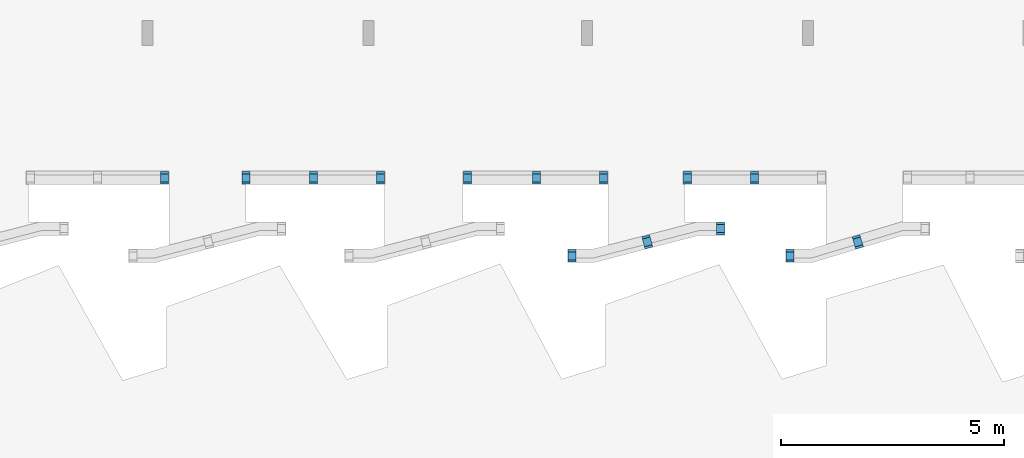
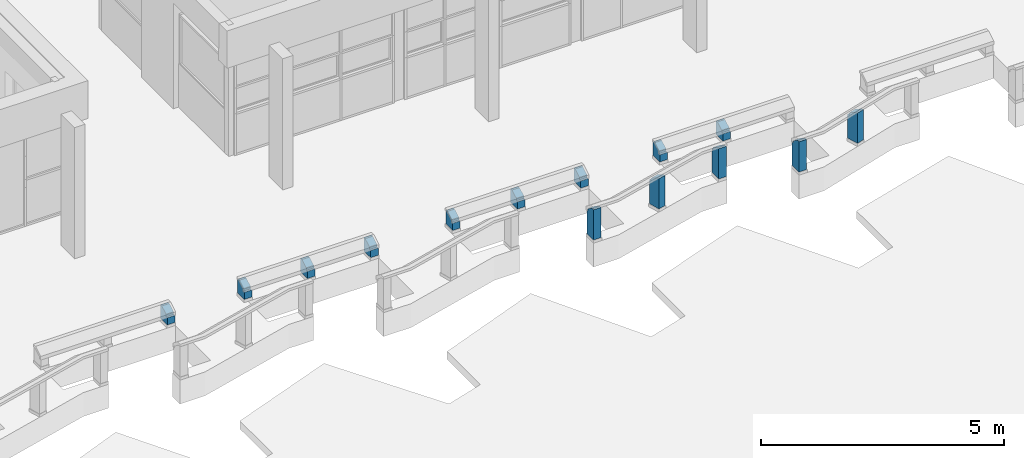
# One storey, part 95 of 117: 14 walls, 14 openings.
"""IFC4 building model written with IfcOpenShell, lengths in metres."""

from ifc_helpers import new_model, entity, si_unit, converted_unit, derived_unit, direction, frame, origin, place, context, subcontext, project, spatial, indexed_curve, outline, extrude, polygons, material, type_object, element, save


model = new_model("IFC4")

# Units and contexts
model_context = context("Model", 3, precision=1e-05, world=origin(), true_north=direction((6.123031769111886e-17, 1.0)))
body_context = subcontext(model_context, "Body", "Model", "MODEL_VIEW")
ifc_project = project(units=[si_unit("LENGTHUNIT", "METRE"), si_unit("AREAUNIT", "SQUARE_METRE"), si_unit("VOLUMEUNIT", "CUBIC_METRE"), converted_unit("PLANEANGLEUNIT", "DEGREE", entity("IfcRatioMeasure", 0.017453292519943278), si_unit("PLANEANGLEUNIT", "RADIAN"), dimensions=[0, 0, 0, 0, 0, 0, 0]), si_unit("MASSUNIT", "GRAM", prefix="KILO"), derived_unit("MASSDENSITYUNIT", [(si_unit("MASSUNIT", "GRAM", prefix="KILO"), 1), (si_unit("LENGTHUNIT", "METRE"), -3)]), derived_unit("MOMENTOFINERTIAUNIT", [(si_unit("LENGTHUNIT", "METRE"), 4)]), si_unit("TIMEUNIT", "SECOND"), si_unit("FREQUENCYUNIT", "HERTZ"), si_unit("THERMODYNAMICTEMPERATUREUNIT", "DEGREE_CELSIUS"), derived_unit("THERMALTRANSMITTANCEUNIT", [(si_unit("MASSUNIT", "GRAM", prefix="KILO"), 1), (si_unit("THERMODYNAMICTEMPERATUREUNIT", "KELVIN"), -1), (si_unit("TIMEUNIT", "SECOND"), -3)]), derived_unit("VOLUMETRICFLOWRATEUNIT", [(si_unit("LENGTHUNIT", "METRE"), 3), (si_unit("TIMEUNIT", "SECOND"), -1)]), derived_unit("MASSFLOWRATEUNIT", [(si_unit("MASSUNIT", "GRAM", prefix="KILO"), 1), (si_unit("TIMEUNIT", "SECOND"), -1)]), derived_unit("ROTATIONALFREQUENCYUNIT", [(si_unit("TIMEUNIT", "SECOND"), -1)]), si_unit("ELECTRICCURRENTUNIT", "AMPERE"), si_unit("ELECTRICVOLTAGEUNIT", "VOLT"), si_unit("POWERUNIT", "WATT"), si_unit("FORCEUNIT", "NEWTON", prefix="KILO"), si_unit("ILLUMINANCEUNIT", "LUX"), si_unit("LUMINOUSFLUXUNIT", "LUMEN"), si_unit("LUMINOUSINTENSITYUNIT", "CANDELA"), derived_unit("USERDEFINED", [(si_unit("MASSUNIT", "GRAM", prefix="KILO"), -1), (si_unit("LENGTHUNIT", "METRE"), -2), (si_unit("TIMEUNIT", "SECOND"), 3), (si_unit("LUMINOUSFLUXUNIT", "LUMEN"), 1)]), derived_unit("SOUNDPOWERUNIT", [(si_unit("MASSUNIT", "GRAM", prefix="KILO"), 1), (si_unit("LENGTHUNIT", "METRE"), 2), (si_unit("TIMEUNIT", "SECOND"), -3)]), derived_unit("SOUNDPRESSUREUNIT", [(si_unit("MASSUNIT", "GRAM", prefix="KILO"), 1), (si_unit("LENGTHUNIT", "METRE"), -1), (si_unit("TIMEUNIT", "SECOND"), -2)]), derived_unit("LINEARVELOCITYUNIT", [(si_unit("LENGTHUNIT", "METRE"), 1), (si_unit("TIMEUNIT", "SECOND"), -1)]), si_unit("PRESSUREUNIT", "PASCAL"), derived_unit("USERDEFINED", [(si_unit("LENGTHUNIT", "METRE"), -2), (si_unit("MASSUNIT", "GRAM", prefix="KILO"), 1), (si_unit("TIMEUNIT", "SECOND"), -2)]), derived_unit("LINEARFORCEUNIT", [(si_unit("MASSUNIT", "GRAM", prefix="KILO"), 1), (si_unit("LENGTHUNIT", "METRE"), 1), (si_unit("TIMEUNIT", "SECOND"), -2), (si_unit("LENGTHUNIT", "METRE"), -1)]), derived_unit("PLANARFORCEUNIT", [(si_unit("MASSUNIT", "GRAM", prefix="KILO"), 1), (si_unit("LENGTHUNIT", "METRE"), 1), (si_unit("TIMEUNIT", "SECOND"), -2), (si_unit("LENGTHUNIT", "METRE"), -2)])], contexts=[model_context])

# Site, building, storey
site_placement = place(None, origin())
site = spatial("IfcSite", under=ifc_project, at=site_placement, Name="Superficie", CompositionType="ELEMENT")
building_placement = place(site_placement, origin())
building = spatial("IfcBuilding", under=site, at=building_placement, CompositionType="ELEMENT")
storey_placement = place(building_placement, origin())
storey = spatial("IfcBuildingStorey", under=building, at=storey_placement, Name="Nivel 0", CompositionType="ELEMENT", Elevation=0.0)

# Wall, opening
ifc_material = material(Name="Muro por defecto", Category="Varios")
wall_type = type_object("IfcWallType", Name="Muro básico:Por defecto - 18 cm 2", PredefinedType="STANDARD")
wall_1_placement = place(storey_placement, frame((-3.4082009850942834, -6.1541707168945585, 0.07000000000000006), z_axis=(0.0, 0.0, 1.0), x_axis=(0.0, -1.0, 0.0)))
wall_1 = element("IfcWall", 1, at=wall_1_placement, inside=storey, type_object=wall_type, material=ifc_material, Name="Muro básico:Por defecto - 18 cm 2", ObjectType="Muro básico:Por defecto - 18 cm 2", PredefinedType="NOTDEFINED", context=body_context, shape_type="Tessellation", body=[
    polygons([(0.0, -0.09000000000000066, 0.0), (0.27999999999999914, -0.09000000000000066, 0.0), (0.27999999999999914, -0.09000000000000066, 0.17999999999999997), (0.22999999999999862, -0.09000000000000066, 0.17999999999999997), (0.22999999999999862, -0.09000000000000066, 0.24069791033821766), (0.04999999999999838, -0.09000000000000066, 0.3399999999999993), (0.0, -0.09000000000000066, 0.3399999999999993), (0.0, 0.09000000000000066, 0.0), (0.0, 0.09000000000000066, 0.3399999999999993), (0.04999999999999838, 0.09000000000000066, 0.3399999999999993), (0.22999999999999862, 0.09000000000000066, 0.24069791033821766), (0.22999999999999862, 0.09000000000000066, 0.17999999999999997), (0.27999999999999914, 0.09000000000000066, 0.17999999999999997), (0.27999999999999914, 0.09000000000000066, 0.0)], [[[1, 2, 3, 4, 5, 6, 7]], [[8, 9, 10, 11, 12, 13, 14]], [[2, 1, 8, 14]], [[1, 7, 9, 8]], [[3, 2, 14, 13]], [[4, 3, 13, 12]], [[5, 4, 12, 11]], [[6, 5, 11, 10]], [[7, 6, 10, 9]]], closed=True),
])
opening_1_placement = place(wall_1_placement, origin())
element("IfcOpeningElement", 2, at=opening_1_placement, cuts=wall_1, Name="Muro básico:Por defecto - 18 cm 2", PredefinedType="OPENING", context=body_context, shape_type="SweptSolid", body=[
    extrude(outline(indexed_curve([(-0.036810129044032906, -0.0128641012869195), (0.04182978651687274, -0.012864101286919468), (-0.005019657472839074, 0.025728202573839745), (-0.036810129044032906, -0.0128641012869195)], self_intersect=False)), frame((0.2466666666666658, 0.09000000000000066, 0.20023263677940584), z_axis=(0.0, -1.0, 0.0), x_axis=(-0.6358094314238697, 0.0, 0.771846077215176)), (0.0, 0.0, 1.0), 0.18),
])

wall_2_placement = place(storey_placement, frame((-1.5779732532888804, -6.154170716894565, 0.07000000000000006), z_axis=(0.0, 0.0, 1.0), x_axis=(0.0, -1.0, 0.0)))
wall_2 = element("IfcWall", 3, at=wall_2_placement, inside=storey, type_object=wall_type, material=ifc_material, Name="Muro básico:Por defecto - 18 cm 2", ObjectType="Muro básico:Por defecto - 18 cm 2", PredefinedType="NOTDEFINED", context=body_context, shape_type="Tessellation", body=[
    polygons([(0.0, -0.08999999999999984, 0.0), (0.27999999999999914, -0.08999999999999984, 0.0), (0.27999999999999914, -0.08999999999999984, 0.17999999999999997), (0.22999999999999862, -0.08999999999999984, 0.17999999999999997), (0.22999999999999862, -0.08999999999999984, 0.24069791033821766), (0.04999999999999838, -0.08999999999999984, 0.3399999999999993), (0.0, -0.08999999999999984, 0.3399999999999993), (0.0, 0.09000000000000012, 0.0), (0.0, 0.09000000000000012, 0.3399999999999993), (0.04999999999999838, 0.09000000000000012, 0.3399999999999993), (0.22999999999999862, 0.09000000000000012, 0.24069791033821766), (0.22999999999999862, 0.09000000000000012, 0.17999999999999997), (0.27999999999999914, 0.09000000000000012, 0.17999999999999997), (0.27999999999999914, 0.09000000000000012, 0.0)], [[[1, 2, 3, 4, 5, 6, 7]], [[8, 9, 10, 11, 12, 13, 14]], [[2, 1, 8, 14]], [[1, 7, 9, 8]], [[3, 2, 14, 13]], [[4, 3, 13, 12]], [[5, 4, 12, 11]], [[6, 5, 11, 10]], [[7, 6, 10, 9]]], closed=True),
])
opening_2_placement = place(wall_2_placement, origin())
element("IfcOpeningElement", 4, at=opening_2_placement, cuts=wall_2, Name="Muro básico:Por defecto - 18 cm 2", PredefinedType="OPENING", context=body_context, shape_type="SweptSolid", body=[
    extrude(outline(indexed_curve([(-0.036810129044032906, -0.0128641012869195), (0.04182978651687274, -0.012864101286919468), (-0.005019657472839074, 0.025728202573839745), (-0.036810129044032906, -0.0128641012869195)], self_intersect=False)), frame((0.2466666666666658, 0.09000000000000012, 0.20023263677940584), z_axis=(0.0, -1.0, 0.0), x_axis=(-0.6358094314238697, 0.0, 0.771846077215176)), (0.0, 0.0, 1.0), 0.18),
])

wall_3_placement = place(storey_placement, frame((-0.07308711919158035, -6.154170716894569, 0.07000000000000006), z_axis=(0.0, 0.0, 1.0), x_axis=(0.0, -1.0, 0.0)))
wall_3 = element("IfcWall", 5, at=wall_3_placement, inside=storey, type_object=wall_type, material=ifc_material, Name="Muro básico:Por defecto - 18 cm 2", ObjectType="Muro básico:Por defecto - 18 cm 2", PredefinedType="NOTDEFINED", context=body_context, shape_type="Tessellation", body=[
    polygons([(0.0, -0.08999999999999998, 0.0), (0.27999999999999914, -0.08999999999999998, 0.0), (0.27999999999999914, -0.08999999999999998, 0.17999999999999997), (0.22999999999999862, -0.08999999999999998, 0.17999999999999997), (0.22999999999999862, -0.08999999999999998, 0.24069791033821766), (0.04999999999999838, -0.08999999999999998, 0.3399999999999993), (0.0, -0.08999999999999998, 0.3399999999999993), (0.0, 0.09, 0.0), (0.0, 0.09, 0.3399999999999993), (0.04999999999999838, 0.09, 0.3399999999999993), (0.22999999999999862, 0.09, 0.24069791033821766), (0.22999999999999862, 0.09, 0.17999999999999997), (0.27999999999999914, 0.09, 0.17999999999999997), (0.27999999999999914, 0.09, 0.0)], [[[1, 2, 3, 4, 5, 6, 7]], [[8, 9, 10, 11, 12, 13, 14]], [[2, 1, 8, 14]], [[1, 7, 9, 8]], [[3, 2, 14, 13]], [[4, 3, 13, 12]], [[5, 4, 12, 11]], [[6, 5, 11, 10]], [[7, 6, 10, 9]]], closed=True),
])
opening_3_placement = place(wall_3_placement, origin())
element("IfcOpeningElement", 6, at=opening_3_placement, cuts=wall_3, Name="Muro básico:Por defecto - 18 cm 2", PredefinedType="OPENING", context=body_context, shape_type="SweptSolid", body=[
    extrude(outline(indexed_curve([(-0.036810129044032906, -0.0128641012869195), (0.04182978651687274, -0.012864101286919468), (-0.005019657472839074, 0.025728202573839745), (-0.036810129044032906, -0.0128641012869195)], self_intersect=False)), frame((0.2466666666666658, 0.09, 0.20023263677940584), z_axis=(0.0, -1.0, 0.0), x_axis=(-0.6358094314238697, 0.0, 0.771846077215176)), (0.0, 0.0, 1.0), 0.18),
])

wall_4_placement = place(storey_placement, frame((1.4317990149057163, -6.154170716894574, 0.07000000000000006), z_axis=(0.0, 0.0, 1.0), x_axis=(0.0, -1.0, 0.0)))
wall_4 = element("IfcWall", 7, at=wall_4_placement, inside=storey, type_object=wall_type, material=ifc_material, Name="Muro básico:Por defecto - 18 cm 2", ObjectType="Muro básico:Por defecto - 18 cm 2", PredefinedType="NOTDEFINED", context=body_context, shape_type="Tessellation", body=[
    polygons([(0.0, -0.08999999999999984, 0.0), (0.27999999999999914, -0.08999999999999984, 0.0), (0.27999999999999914, -0.08999999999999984, 0.17999999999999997), (0.22999999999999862, -0.08999999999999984, 0.17999999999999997), (0.22999999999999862, -0.08999999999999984, 0.24069791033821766), (0.04999999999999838, -0.08999999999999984, 0.3399999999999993), (0.0, -0.08999999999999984, 0.3399999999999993), (0.0, 0.09000000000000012, 0.0), (0.0, 0.09000000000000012, 0.3399999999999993), (0.04999999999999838, 0.09000000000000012, 0.3399999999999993), (0.22999999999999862, 0.09000000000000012, 0.24069791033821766), (0.22999999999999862, 0.09000000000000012, 0.17999999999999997), (0.27999999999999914, 0.09000000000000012, 0.17999999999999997), (0.27999999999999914, 0.09000000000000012, 0.0)], [[[1, 2, 3, 4, 5, 6, 7]], [[8, 9, 10, 11, 12, 13, 14]], [[2, 1, 8, 14]], [[1, 7, 9, 8]], [[3, 2, 14, 13]], [[4, 3, 13, 12]], [[5, 4, 12, 11]], [[6, 5, 11, 10]], [[7, 6, 10, 9]]], closed=True),
])
opening_4_placement = place(wall_4_placement, origin())
element("IfcOpeningElement", 8, at=opening_4_placement, cuts=wall_4, Name="Muro básico:Por defecto - 18 cm 2", PredefinedType="OPENING", context=body_context, shape_type="SweptSolid", body=[
    extrude(outline(indexed_curve([(-0.036810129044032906, -0.0128641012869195), (0.04182978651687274, -0.012864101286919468), (-0.005019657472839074, 0.025728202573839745), (-0.036810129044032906, -0.0128641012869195)], self_intersect=False)), frame((0.2466666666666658, 0.09000000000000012, 0.20023263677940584), z_axis=(0.0, -1.0, 0.0), x_axis=(-0.6358094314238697, 0.0, 0.771846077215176)), (0.0, 0.0, 1.0), 0.18),
])

wall_5_placement = place(storey_placement, frame((3.3815712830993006, -6.154170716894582, 0.07000000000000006), z_axis=(0.0, 0.0, 1.0), x_axis=(0.0, -1.0, 0.0)))
wall_5 = element("IfcWall", 9, at=wall_5_placement, inside=storey, type_object=wall_type, material=ifc_material, Name="Muro básico:Por defecto - 18 cm 2", ObjectType="Muro básico:Por defecto - 18 cm 2", PredefinedType="NOTDEFINED", context=body_context, shape_type="Tessellation", body=[
    polygons([(0.0, -0.09000000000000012, 0.0), (0.27999999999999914, -0.09000000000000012, 0.0), (0.27999999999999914, -0.09000000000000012, 0.17999999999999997), (0.22999999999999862, -0.09000000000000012, 0.17999999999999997), (0.22999999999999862, -0.09000000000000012, 0.24069791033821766), (0.04999999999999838, -0.09000000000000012, 0.3399999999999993), (0.0, -0.09000000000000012, 0.3399999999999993), (0.0, 0.09000000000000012, 0.0), (0.0, 0.09000000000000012, 0.3399999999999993), (0.04999999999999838, 0.09000000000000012, 0.3399999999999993), (0.22999999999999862, 0.09000000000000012, 0.24069791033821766), (0.22999999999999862, 0.09000000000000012, 0.17999999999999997), (0.27999999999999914, 0.09000000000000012, 0.17999999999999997), (0.27999999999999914, 0.09000000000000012, 0.0)], [[[1, 2, 3, 4, 5, 6, 7]], [[8, 9, 10, 11, 12, 13, 14]], [[2, 1, 8, 14]], [[1, 7, 9, 8]], [[3, 2, 14, 13]], [[4, 3, 13, 12]], [[5, 4, 12, 11]], [[6, 5, 11, 10]], [[7, 6, 10, 9]]], closed=True),
])
opening_5_placement = place(wall_5_placement, origin())
element("IfcOpeningElement", 10, at=opening_5_placement, cuts=wall_5, Name="Muro básico:Por defecto - 18 cm 2", PredefinedType="OPENING", context=body_context, shape_type="SweptSolid", body=[
    extrude(outline(indexed_curve([(-0.03681012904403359, -0.012864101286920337), (0.041829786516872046, -0.012864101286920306), (-0.005019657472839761, 0.025728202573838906), (-0.03681012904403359, -0.012864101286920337)], self_intersect=False)), frame((0.24666666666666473, 0.09000000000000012, 0.20023263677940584), z_axis=(0.0, -1.0, 0.0), x_axis=(-0.6358094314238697, 0.0, 0.771846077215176)), (0.0, 0.0, 1.0), 0.18),
])

wall_6_placement = place(storey_placement, frame((4.926457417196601, -6.154170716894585, 0.07000000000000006), z_axis=(0.0, 0.0, 1.0), x_axis=(0.0, -1.0, 0.0)))
wall_6 = element("IfcWall", 11, at=wall_6_placement, inside=storey, type_object=wall_type, material=ifc_material, Name="Muro básico:Por defecto - 18 cm 2", ObjectType="Muro básico:Por defecto - 18 cm 2", PredefinedType="NOTDEFINED", context=body_context, shape_type="Tessellation", body=[
    polygons([(0.0, -0.09000000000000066, 0.0), (0.27999999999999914, -0.09000000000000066, 0.0), (0.27999999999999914, -0.09000000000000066, 0.17999999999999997), (0.22999999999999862, -0.09000000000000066, 0.17999999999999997), (0.22999999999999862, -0.09000000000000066, 0.24069791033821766), (0.04999999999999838, -0.09000000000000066, 0.3399999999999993), (0.0, -0.09000000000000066, 0.3399999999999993), (0.0, 0.09000000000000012, 0.0), (0.0, 0.09000000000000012, 0.3399999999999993), (0.04999999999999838, 0.09000000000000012, 0.3399999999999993), (0.22999999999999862, 0.09000000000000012, 0.24069791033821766), (0.22999999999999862, 0.09000000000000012, 0.17999999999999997), (0.27999999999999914, 0.09000000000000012, 0.17999999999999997), (0.27999999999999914, 0.09000000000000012, 0.0)], [[[1, 2, 3, 4, 5, 6, 7]], [[8, 9, 10, 11, 12, 13, 14]], [[2, 1, 8, 14]], [[1, 7, 9, 8]], [[3, 2, 14, 13]], [[4, 3, 13, 12]], [[5, 4, 12, 11]], [[6, 5, 11, 10]], [[7, 6, 10, 9]]], closed=True),
])
opening_6_placement = place(wall_6_placement, origin())
element("IfcOpeningElement", 12, at=opening_6_placement, cuts=wall_6, Name="Muro básico:Por defecto - 18 cm 2", PredefinedType="OPENING", context=body_context, shape_type="SweptSolid", body=[
    extrude(outline(indexed_curve([(-0.03681012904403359, -0.012864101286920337), (0.041829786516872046, -0.012864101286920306), (-0.005019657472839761, 0.025728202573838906), (-0.03681012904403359, -0.012864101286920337)], self_intersect=False)), frame((0.24666666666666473, 0.09000000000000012, 0.20023263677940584), z_axis=(0.0, -1.0, 0.0), x_axis=(-0.6358094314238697, 0.0, 0.771846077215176)), (0.0, 0.0, 1.0), 0.18),
])

wall_7_placement = place(storey_placement, frame((6.431343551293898, -6.15417071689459, 0.07000000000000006), z_axis=(0.0, 0.0, 1.0), x_axis=(0.0, -1.0, 0.0)))
wall_7 = element("IfcWall", 13, at=wall_7_placement, inside=storey, type_object=wall_type, material=ifc_material, Name="Muro básico:Por defecto - 18 cm 2", ObjectType="Muro básico:Por defecto - 18 cm 2", PredefinedType="NOTDEFINED", context=body_context, shape_type="Tessellation", body=[
    polygons([(0.0, -0.09000000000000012, 0.0), (0.27999999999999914, -0.09000000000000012, 0.0), (0.27999999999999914, -0.09000000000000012, 0.17999999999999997), (0.22999999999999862, -0.09000000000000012, 0.17999999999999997), (0.22999999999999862, -0.09000000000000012, 0.24069791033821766), (0.04999999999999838, -0.09000000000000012, 0.3399999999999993), (0.0, -0.09000000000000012, 0.3399999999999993), (0.0, 0.08999999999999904, 0.0), (0.0, 0.08999999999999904, 0.3399999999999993), (0.04999999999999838, 0.08999999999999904, 0.3399999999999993), (0.22999999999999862, 0.08999999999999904, 0.24069791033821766), (0.22999999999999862, 0.08999999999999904, 0.17999999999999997), (0.27999999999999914, 0.08999999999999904, 0.17999999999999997), (0.27999999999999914, 0.08999999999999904, 0.0)], [[[1, 2, 3, 4, 5, 6, 7]], [[8, 9, 10, 11, 12, 13, 14]], [[2, 1, 8, 14]], [[1, 7, 9, 8]], [[3, 2, 14, 13]], [[4, 3, 13, 12]], [[5, 4, 12, 11]], [[6, 5, 11, 10]], [[7, 6, 10, 9]]], closed=True),
])
opening_7_placement = place(wall_7_placement, origin())
element("IfcOpeningElement", 14, at=opening_7_placement, cuts=wall_7, Name="Muro básico:Por defecto - 18 cm 2", PredefinedType="OPENING", context=body_context, shape_type="SweptSolid", body=[
    extrude(outline(indexed_curve([(-0.03681012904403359, -0.012864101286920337), (0.041829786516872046, -0.012864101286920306), (-0.005019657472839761, 0.025728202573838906), (-0.03681012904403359, -0.012864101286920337)], self_intersect=False)), frame((0.24666666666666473, 0.08999999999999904, 0.20023263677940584), z_axis=(0.0, -1.0, 0.0), x_axis=(-0.6358094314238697, 0.0, 0.771846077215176)), (0.0, 0.0, 1.0), 0.18),
])

wall_8_placement = place(storey_placement, frame((8.312026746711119, -6.154170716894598, 0.07000000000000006), z_axis=(0.0, 0.0, 1.0), x_axis=(0.0, -1.0, 0.0)))
wall_8 = element("IfcWall", 15, at=wall_8_placement, inside=storey, type_object=wall_type, material=ifc_material, Name="Muro básico:Por defecto - 18 cm 2", ObjectType="Muro básico:Por defecto - 18 cm 2", PredefinedType="NOTDEFINED", context=body_context, shape_type="Tessellation", body=[
    polygons([(0.0, -0.09000000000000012, 0.0), (0.27999999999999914, -0.09000000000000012, 0.0), (0.27999999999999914, -0.09000000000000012, 0.17999999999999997), (0.22999999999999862, -0.09000000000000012, 0.17999999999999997), (0.22999999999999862, -0.09000000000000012, 0.24069791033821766), (0.04999999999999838, -0.09000000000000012, 0.3399999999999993), (0.0, -0.09000000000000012, 0.3399999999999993), (0.0, 0.09000000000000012, 0.0), (0.0, 0.09000000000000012, 0.3399999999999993), (0.04999999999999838, 0.09000000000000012, 0.3399999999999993), (0.22999999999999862, 0.09000000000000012, 0.24069791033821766), (0.22999999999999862, 0.09000000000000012, 0.17999999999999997), (0.27999999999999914, 0.09000000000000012, 0.17999999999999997), (0.27999999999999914, 0.09000000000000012, 0.0)], [[[1, 2, 3, 4, 5, 6, 7]], [[8, 9, 10, 11, 12, 13, 14]], [[2, 1, 8, 14]], [[1, 7, 9, 8]], [[3, 2, 14, 13]], [[4, 3, 13, 12]], [[5, 4, 12, 11]], [[6, 5, 11, 10]], [[7, 6, 10, 9]]], closed=True),
])
opening_8_placement = place(wall_8_placement, origin())
element("IfcOpeningElement", 16, at=opening_8_placement, cuts=wall_8, Name="Muro básico:Por defecto - 18 cm 2", PredefinedType="OPENING", context=body_context, shape_type="SweptSolid", body=[
    extrude(outline(indexed_curve([(-0.036810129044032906, -0.0128641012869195), (0.04182978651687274, -0.012864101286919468), (-0.005019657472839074, 0.025728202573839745), (-0.036810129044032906, -0.0128641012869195)], self_intersect=False)), frame((0.2466666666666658, 0.08999999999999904, 0.20023263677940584), z_axis=(0.0, -1.0, 0.0), x_axis=(-0.6358094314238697, 0.0, 0.771846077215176)), (0.0, 0.0, 1.0), 0.18),
])

wall_9_placement = place(storey_placement, frame((9.816912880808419, -6.154170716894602, 0.07000000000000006), z_axis=(0.0, 0.0, 1.0), x_axis=(0.0, -1.0, 0.0)))
wall_9 = element("IfcWall", 17, at=wall_9_placement, inside=storey, type_object=wall_type, material=ifc_material, Name="Muro básico:Por defecto - 18 cm 2", ObjectType="Muro básico:Por defecto - 18 cm 2", PredefinedType="NOTDEFINED", context=body_context, shape_type="Tessellation", body=[
    polygons([(0.0, -0.0900000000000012, 0.0), (0.27999999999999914, -0.0900000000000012, 0.0), (0.27999999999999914, -0.0900000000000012, 0.17999999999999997), (0.22999999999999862, -0.0900000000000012, 0.17999999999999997), (0.22999999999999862, -0.0900000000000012, 0.24069791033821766), (0.04999999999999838, -0.0900000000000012, 0.3399999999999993), (0.0, -0.0900000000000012, 0.3399999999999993), (0.0, 0.08999999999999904, 0.0), (0.0, 0.08999999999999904, 0.3399999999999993), (0.04999999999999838, 0.08999999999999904, 0.3399999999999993), (0.22999999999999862, 0.08999999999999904, 0.24069791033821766), (0.22999999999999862, 0.08999999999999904, 0.17999999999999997), (0.27999999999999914, 0.08999999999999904, 0.17999999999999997), (0.27999999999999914, 0.08999999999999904, 0.0)], [[[1, 2, 3, 4, 5, 6, 7]], [[8, 9, 10, 11, 12, 13, 14]], [[2, 1, 8, 14]], [[1, 7, 9, 8]], [[3, 2, 14, 13]], [[4, 3, 13, 12]], [[5, 4, 12, 11]], [[6, 5, 11, 10]], [[7, 6, 10, 9]]], closed=True),
])
opening_9_placement = place(wall_9_placement, origin())
element("IfcOpeningElement", 18, at=opening_9_placement, cuts=wall_9, Name="Muro básico:Por defecto - 18 cm 2", PredefinedType="OPENING", context=body_context, shape_type="SweptSolid", body=[
    extrude(outline(indexed_curve([(-0.036810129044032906, -0.0128641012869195), (0.04182978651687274, -0.012864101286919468), (-0.005019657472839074, 0.025728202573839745), (-0.036810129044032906, -0.0128641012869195)], self_intersect=False)), frame((0.2466666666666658, 0.08999999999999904, 0.20023263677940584), z_axis=(0.0, -1.0, 0.0), x_axis=(-0.6358094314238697, 0.0, 0.771846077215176)), (0.0, 0.0, 1.0), 0.18),
])

wall_10_placement = place(storey_placement, frame((9.057140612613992, -7.574170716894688, 0.07000000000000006), z_axis=(0.0, 0.0, 1.0), x_axis=(0.0, 1.0, 0.0)))
wall_10 = element("IfcWall", 19, at=wall_10_placement, inside=storey, type_object=wall_type, material=ifc_material, Name="Muro básico:Por defecto - 18 cm 2", ObjectType="Muro básico:Por defecto - 18 cm 2", PredefinedType="NOTDEFINED", context=body_context, shape_type="Tessellation", body=[
    polygons([(1.0828671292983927e-15, -0.08999999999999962, 0.0), (0.2799999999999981, -0.08999999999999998, 0.0), (0.2799999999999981, -0.08999999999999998, 0.6000000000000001), (0.22999999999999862, -0.08999999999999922, 0.6000000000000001), (0.22999999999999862, -0.08999999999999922, 0.6606979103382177), (0.04999999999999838, -0.0899999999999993, 0.7599999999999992), (1.0828671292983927e-15, -0.08999999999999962, 0.7599999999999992), (0.0, 0.09000000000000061, 0.0), (0.0, 0.09000000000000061, 0.7599999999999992), (0.0499999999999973, 0.09000000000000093, 0.7599999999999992), (0.22999999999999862, 0.09000000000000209, 0.6606979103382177), (0.22999999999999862, 0.09000000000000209, 0.6000000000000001), (0.27999999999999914, 0.09000000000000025, 0.6000000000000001), (0.27999999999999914, 0.09000000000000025, 0.0)], [[[1, 2, 3, 4, 5, 6, 7]], [[8, 9, 10, 11, 12, 13, 14]], [[2, 1, 8, 14]], [[1, 7, 9, 8]], [[3, 2, 14, 13]], [[4, 3, 13, 12]], [[5, 4, 12, 11]], [[6, 5, 11, 10]], [[7, 6, 10, 9]]], closed=True),
])
opening_10_placement = place(wall_10_placement, origin())
element("IfcOpeningElement", 20, at=opening_10_placement, cuts=wall_10, Name="Muro básico:Por defecto - 18 cm 2", PredefinedType="OPENING", context=body_context, shape_type="SweptSolid", body=[
    extrude(outline(indexed_curve([(-0.036810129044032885, -0.012864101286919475), (0.04182978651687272, -0.0128641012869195), (-0.005019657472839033, 0.025728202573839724), (-0.036810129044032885, -0.012864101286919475)], self_intersect=False)), frame((0.2466666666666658, 0.0900000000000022, 0.6202326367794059), z_axis=(0.0, -1.0, 0.0), x_axis=(-0.6358094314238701, 0.0, 0.7718460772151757)), (0.0, 0.0, 1.0), 0.18),
])

wall_11_placement = place(storey_placement, frame((7.447689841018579, -7.866896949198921, 0.06999999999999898), z_axis=(0.0, 0.0, 1.0), x_axis=(-0.2512480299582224, 0.9679227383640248, 0.0)))
wall_11 = element("IfcWall", 21, at=wall_11_placement, inside=storey, type_object=wall_type, material=ifc_material, Name="Muro básico:Por defecto - 18 cm 2", ObjectType="Muro básico:Por defecto - 18 cm 2", PredefinedType="NOTDEFINED", context=body_context, shape_type="Tessellation", body=[
    polygons([(-1.0828671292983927e-15, -0.08999999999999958, 0.0), (0.28000000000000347, -0.08999999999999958, 0.0), (0.28000000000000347, -0.08999999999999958, 0.6000000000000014), (0.23000000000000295, -0.08999999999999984, 0.6000000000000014), (0.23000000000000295, -0.08999999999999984, 0.660697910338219), (0.050000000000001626, -0.09000000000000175, 0.7600000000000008), (-1.0828671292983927e-15, -0.08999999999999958, 0.7600000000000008), (0.0, 0.0899999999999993, 0.0), (0.0, 0.0899999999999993, 0.7600000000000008), (0.05000000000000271, 0.08999999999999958, 0.7600000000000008), (0.23000000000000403, 0.09000000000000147, 0.660697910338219), (0.23000000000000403, 0.09000000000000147, 0.6000000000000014), (0.28000000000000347, 0.09000000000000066, 0.6000000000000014), (0.28000000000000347, 0.09000000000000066, 0.0)], [[[1, 2, 3, 4, 5, 6, 7]], [[8, 9, 10, 11, 12, 13, 14]], [[2, 1, 8, 14]], [[1, 7, 9, 8]], [[3, 2, 14, 13]], [[4, 3, 13, 12]], [[5, 4, 12, 11]], [[6, 5, 11, 10]], [[7, 6, 10, 9]]], closed=True),
])
opening_11_placement = place(wall_11_placement, origin())
element("IfcOpeningElement", 22, at=opening_11_placement, cuts=wall_11, Name="Muro básico:Por defecto - 18 cm 2", PredefinedType="OPENING", context=body_context, shape_type="SweptSolid", body=[
    extrude(outline(indexed_curve([(-0.036810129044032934, -0.012864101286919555), (0.04182978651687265, -0.012864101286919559), (-0.005019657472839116, 0.025728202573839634), (-0.036810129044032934, -0.012864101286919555)], self_intersect=False)), frame((0.24666666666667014, 0.08999999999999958, 0.6202326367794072), z_axis=(0.0, -1.0, 0.0), x_axis=(-0.6358094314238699, 0.0, 0.7718460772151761)), (0.0, 0.0, 1.0), 0.17999999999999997),
])

wall_12_placement = place(storey_placement, frame((5.727140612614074, -8.184170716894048, 0.07000000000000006), z_axis=(0.0, 0.0, 1.0), x_axis=(0.0, 1.0, 0.0)))
wall_12 = element("IfcWall", 23, at=wall_12_placement, inside=storey, type_object=wall_type, material=ifc_material, Name="Muro básico:Por defecto - 18 cm 2", ObjectType="Muro básico:Por defecto - 18 cm 2", PredefinedType="NOTDEFINED", context=body_context, shape_type="Tessellation", body=[
    polygons([(1.0828671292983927e-15, -0.09000000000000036, 0.0), (0.27999999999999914, -0.0900000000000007, 0.0), (0.27999999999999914, -0.0900000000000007, 0.6000000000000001), (0.2299999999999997, -0.08999999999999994, 0.6000000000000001), (0.2299999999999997, -0.08999999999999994, 0.6606979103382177), (0.04999999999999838, -0.09000000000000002, 0.7599999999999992), (1.0828671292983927e-15, -0.09000000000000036, 0.7599999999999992), (1.0828671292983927e-15, 0.08999999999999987, 0.0), (1.0828671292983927e-15, 0.08999999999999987, 0.7599999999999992), (0.04999999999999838, 0.0900000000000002, 0.7599999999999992), (0.22999999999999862, 0.09000000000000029, 0.6606979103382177), (0.22999999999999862, 0.09000000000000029, 0.6000000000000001), (0.2799999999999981, 0.08999999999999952, 0.6000000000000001), (0.2799999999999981, 0.08999999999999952, 0.0)], [[[1, 2, 3, 4, 5, 6, 7]], [[8, 9, 10, 11, 12, 13, 14]], [[2, 1, 8, 14]], [[1, 7, 9, 8]], [[3, 2, 14, 13]], [[4, 3, 13, 12]], [[5, 4, 12, 11]], [[6, 5, 11, 10]], [[7, 6, 10, 9]]], closed=True),
])
opening_12_placement = place(wall_12_placement, origin())
element("IfcOpeningElement", 24, at=opening_12_placement, cuts=wall_12, Name="Muro básico:Por defecto - 18 cm 2", PredefinedType="OPENING", context=body_context, shape_type="SweptSolid", body=[
    extrude(outline(indexed_curve([(-0.036810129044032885, -0.012864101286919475), (0.04182978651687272, -0.0128641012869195), (-0.005019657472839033, 0.025728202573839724), (-0.036810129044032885, -0.012864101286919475)], self_intersect=False)), frame((0.2466666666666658, 0.08999999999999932, 0.6202326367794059), z_axis=(0.0, -1.0, 0.0), x_axis=(-0.6358094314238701, 0.0, 0.7718460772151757)), (0.0, 0.0, 1.0), 0.18),
])

wall_13_placement = place(storey_placement, frame((12.171497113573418, -7.8669026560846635, 0.06999999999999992), z_axis=(0.0, 0.0, 1.0), x_axis=(-0.2877806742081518, 0.9576963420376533, 0.0)))
wall_13 = element("IfcWall", 25, at=wall_13_placement, inside=storey, type_object=wall_type, material=ifc_material, Name="Muro básico:Por defecto - 18 cm 2", ObjectType="Muro básico:Por defecto - 18 cm 2", PredefinedType="NOTDEFINED", context=body_context, shape_type="Tessellation", body=[
    polygons([(0.0, -0.0899999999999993, 0.0), (0.2800000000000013, -0.09000000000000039, 0.0), (0.2800000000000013, -0.09000000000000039, 0.6000000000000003), (0.2299999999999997, -0.0900000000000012, 0.6000000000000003), (0.2299999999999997, -0.0900000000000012, 0.660697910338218), (0.04999999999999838, -0.09000000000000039, 0.7599999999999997), (0.0, -0.0899999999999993, 0.7599999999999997), (1.0828671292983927e-15, 0.08999999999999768, 0.0), (1.0828671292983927e-15, 0.08999999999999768, 0.7599999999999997), (0.04999999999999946, 0.08999999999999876, 0.7599999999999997), (0.2300000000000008, 0.08999999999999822, 0.660697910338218), (0.2300000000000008, 0.08999999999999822, 0.6000000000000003), (0.28000000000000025, 0.08999999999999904, 0.6000000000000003), (0.28000000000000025, 0.08999999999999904, 0.0)], [[[1, 2, 3, 4, 5, 6, 7]], [[8, 9, 10, 11, 12, 13, 14]], [[2, 1, 8, 14]], [[1, 7, 9, 8]], [[3, 2, 14, 13]], [[4, 3, 13, 12]], [[5, 4, 12, 11]], [[6, 5, 11, 10]], [[7, 6, 10, 9]]], closed=True),
])
opening_13_placement = place(wall_13_placement, origin())
element("IfcOpeningElement", 26, at=opening_13_placement, cuts=wall_13, Name="Muro básico:Por defecto - 18 cm 2", PredefinedType="OPENING", context=body_context, shape_type="SweptSolid", body=[
    extrude(outline(indexed_curve([(-0.036810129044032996, -0.012864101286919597), (0.041829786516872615, -0.012864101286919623), (-0.005019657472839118, 0.025728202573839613), (-0.036810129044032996, -0.012864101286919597)], self_intersect=False)), frame((0.2466666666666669, 0.08999999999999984, 0.6202326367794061), z_axis=(0.0, -1.0, 0.0), x_axis=(-0.6358094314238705, 0.0, 0.7718460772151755)), (0.0, 0.0, 1.0), 0.17999999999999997),
])

wall_14_placement = place(storey_placement, frame((10.614800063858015, -8.184170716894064, 0.07000000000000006), z_axis=(0.0, 0.0, 1.0), x_axis=(0.0, 1.0, 0.0)))
wall_14 = element("IfcWall", 27, at=wall_14_placement, inside=storey, type_object=wall_type, material=ifc_material, Name="Muro básico:Por defecto - 18 cm 2", ObjectType="Muro básico:Por defecto - 18 cm 2", PredefinedType="NOTDEFINED", context=body_context, shape_type="Tessellation", body=[
    polygons([(-1.0828671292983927e-15, -0.09000000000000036, 0.0), (0.2799999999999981, -0.0900000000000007, 0.0), (0.2799999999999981, -0.0900000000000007, 0.6000000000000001), (0.22999999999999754, -0.09000000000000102, 0.6000000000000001), (0.22999999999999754, -0.09000000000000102, 0.6606979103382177), (0.049999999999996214, -0.09000000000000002, 0.7599999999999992), (-1.0828671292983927e-15, -0.09000000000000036, 0.7599999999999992), (0.0, 0.08999999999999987, 0.0), (0.0, 0.08999999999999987, 0.7599999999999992), (0.0499999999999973, 0.0900000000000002, 0.7599999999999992), (0.22999999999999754, 0.0899999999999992, 0.6606979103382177), (0.22999999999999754, 0.0899999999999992, 0.6000000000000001), (0.2799999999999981, 0.08999999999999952, 0.6000000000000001), (0.2799999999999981, 0.08999999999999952, 0.0)], [[[1, 2, 3, 4, 5, 6, 7]], [[8, 9, 10, 11, 12, 13, 14]], [[2, 1, 8, 14]], [[1, 7, 9, 8]], [[3, 2, 14, 13]], [[4, 3, 13, 12]], [[5, 4, 12, 11]], [[6, 5, 11, 10]], [[7, 6, 10, 9]]], closed=True),
])
opening_14_placement = place(wall_14_placement, origin())
element("IfcOpeningElement", 28, at=opening_14_placement, cuts=wall_14, Name="Muro básico:Por defecto - 18 cm 2", PredefinedType="OPENING", context=body_context, shape_type="SweptSolid", body=[
    extrude(outline(indexed_curve([(-0.03681012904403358, -0.012864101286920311), (0.041829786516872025, -0.012864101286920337), (-0.0050196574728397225, 0.025728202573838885), (-0.03681012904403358, -0.012864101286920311)], self_intersect=False)), frame((0.24666666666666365, 0.08999999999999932, 0.6202326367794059), z_axis=(0.0, -1.0, 0.0), x_axis=(-0.6358094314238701, 0.0, 0.7718460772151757)), (0.0, 0.0, 1.0), 0.18),
])

save(model, "model.ifc")
